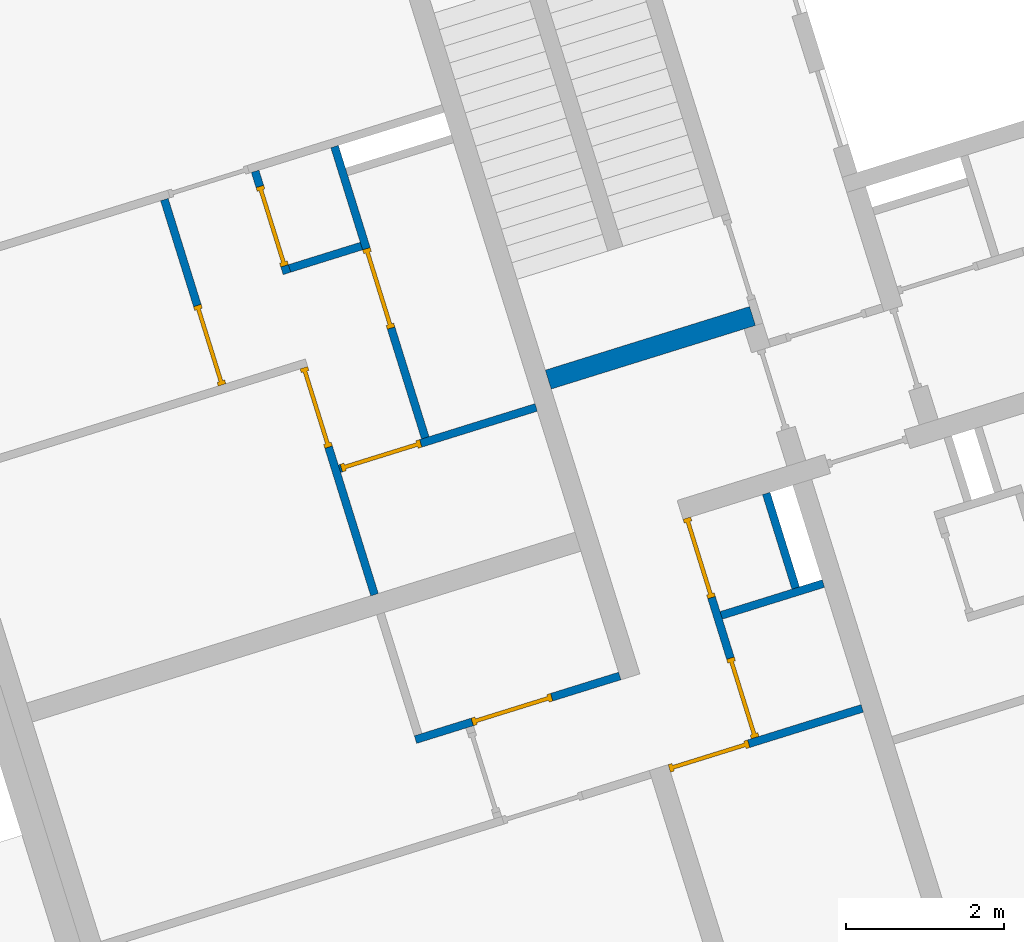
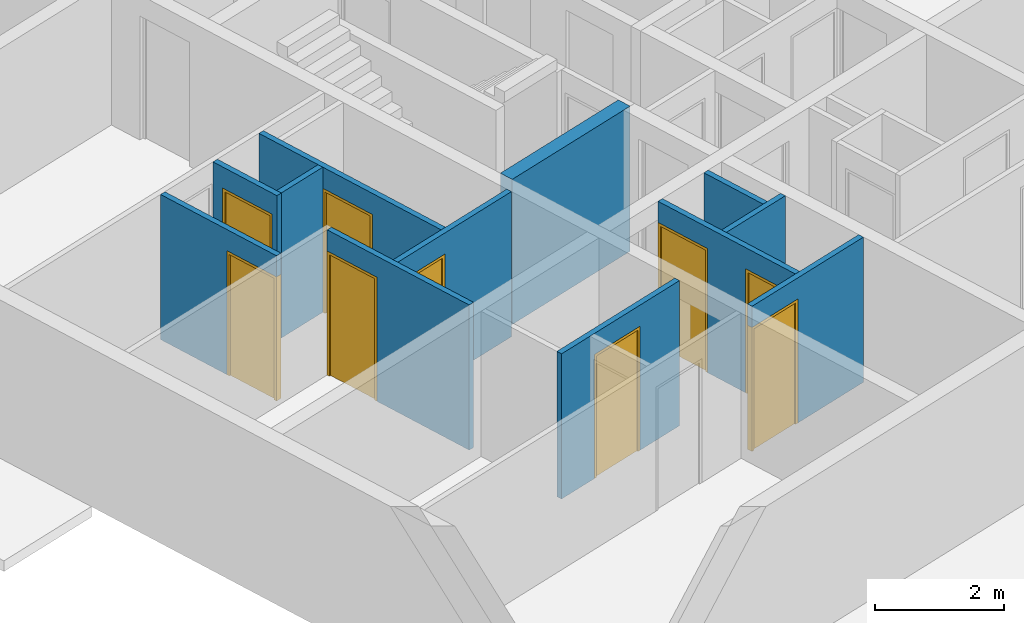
# One storey, part 2 of 9: 12 walls, 9 doors, 10 openings.
"""IFC4 building model written with IfcOpenShell, lengths in metres."""

from ifc_helpers import new_model, entity, si_unit, converted_unit, direction, frame, origin, place, context, subcontext, project, spatial, indexed_curve, outline, extrude, polygons, source, transform, mapped, material, constituent, constituent_set, type_object, type_shapes, element, fill, save


model = new_model("IFC4")

# Units and contexts
model_context = context("Model", 3, precision=1e-05, world=origin(), true_north=direction((6.12323399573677e-17, 1.0)))
body_context = subcontext(model_context, "Body", "Model", "MODEL_VIEW")
ifc_project = project(units=[si_unit("LENGTHUNIT", "METRE"), si_unit("AREAUNIT", "SQUARE_METRE"), converted_unit("PLANEANGLEUNIT", "DEGREE", entity("IfcPlaneAngleMeasure", 0.0174532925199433), si_unit("PLANEANGLEUNIT", "RADIAN"), dimensions=[0, 0, 0, 0, 0, 0, 0]), si_unit("VOLUMEUNIT", "CUBIC_METRE")], contexts=[model_context])

# Site, building, storey
site_placement = place(None, frame((13.1347999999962, 11.9886000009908, 0.0), z_axis=(0.0, 0.0, 1.0), x_axis=(0.954770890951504, 0.297342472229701, 0.0)))
site = spatial("IfcSite", under=ifc_project, at=site_placement, Name="Schiehaven", CompositionType="ELEMENT")
building_placement = place(site_placement, origin())
building = spatial("IfcBuilding", under=site, at=building_placement, Name="VORM huis", CompositionType="ELEMENT")
storey_placement = place(building_placement, frame((0.0, 0.0, 6.9)))
storey = spatial("IfcBuildingStorey", under=building, at=storey_placement, Name="02 tweede verdieping", CompositionType="ELEMENT", Elevation=6.9)

# Walls
ifc_material_1 = material(Name="ntb_ntb_ntb", Category="Miscellaneous")
wall_type_1 = type_object("IfcWallType", Name="Basic Wall:22_WA_afbouw_binnenwand 250mm_gen", PredefinedType="STANDARD")
wall_1_placement = place(storey_placement, frame((65.1249999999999, 13.9649999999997, 0.0)))
element("IfcWall", 1, at=wall_1_placement, inside=storey, type_object=wall_type_1, material=ifc_material_1, Name="Binnenwand", ObjectType="Wand", PredefinedType="NOTDEFINED", context=body_context, shape_type="SweptSolid", body=[
    extrude(outline(indexed_curve([(2.70000000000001, 0.125000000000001), (1.53816777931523e-15, 0.125), (-1.53816777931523e-15, -0.125), (2.70000000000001, -0.124999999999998), (2.70000000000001, 0.125000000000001)], self_intersect=False)), origin(), (0.0, 0.0, 1.0), 2.75),
])
wall_type_2 = type_object("IfcWallType", Name="Basic Wall:22_WA_afbouw_binnenwand 100mm_gen", PredefinedType="STANDARD")
wall_2_placement = place(storey_placement, frame((67.6749999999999, 10.4749999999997, 0.0), z_axis=(0.0, 0.0, 1.0), x_axis=(-1.0, 0.0, 0.0)))
element("IfcWall", 2, at=wall_2_placement, inside=storey, type_object=wall_type_2, material=ifc_material_1, Name="Binnenwand", ObjectType="Wand", PredefinedType="NOTDEFINED", context=body_context, shape_type="SweptSolid", body=[
    extrude(outline(indexed_curve([(1.34999999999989, 0.0499999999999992), (8.93476767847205e-18, 0.0499999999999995), (-8.93476767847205e-18, -0.0499999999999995), (1.34999999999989, -0.0499999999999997), (1.34999999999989, 0.0499999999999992)], self_intersect=False)), origin(), (0.0, 0.0, 1.0), 2.75),
])

# Wall, opening, door
wall_3_placement = place(storey_placement, frame((62.175, 10.1249999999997, 0.0)))
wall_3 = element("IfcWall", 3, at=wall_3_placement, inside=storey, type_object=wall_type_2, material=ifc_material_1, Name="Binnenwand", ObjectType="Wand", PredefinedType="NOTDEFINED", context=body_context, shape_type="Tessellation", body=[
    polygons([(2.96937021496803e-15, -0.0499999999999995, 1.08286712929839e-15), (0.650000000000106, -0.0499999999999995, 0.0), (0.750000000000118, -0.0499999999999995, 1.08286712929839e-15), (0.750000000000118, -0.0499999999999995, 2.34999999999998), (1.80000000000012, -0.0499999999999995, 2.34999999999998), (1.80000000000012, -0.0499999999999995, 1.08286712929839e-15), (2.69999999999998, -0.0499999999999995, 1.08286712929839e-15), (2.69999999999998, -0.0499999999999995, 2.75), (0.75000000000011, -0.0499999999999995, 2.75), (0.650000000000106, -0.0499999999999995, 2.75), (2.96937021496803e-15, -0.0499999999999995, 2.75), (0.750000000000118, 0.0499999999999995, 2.34999999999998), (0.750000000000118, 0.0499999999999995, 1.08286712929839e-15), (0.100000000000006, 0.0499999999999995, 0.0), (2.91285838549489e-15, 0.0499999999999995, 1.08286712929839e-15), (2.91285838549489e-15, 0.0499999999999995, 2.75), (0.100000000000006, 0.0499999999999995, 2.75), (2.69999999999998, 0.0499999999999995, 2.75), (2.69999999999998, 0.0499999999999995, 1.08286712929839e-15), (1.80000000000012, 0.0499999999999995, 1.08286712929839e-15), (1.80000000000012, 0.0499999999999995, 2.34999999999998)], [[[1, 2, 3, 4, 5, 6, 7, 8, 9, 10, 11]], [[12, 13, 14, 15, 16, 17, 18, 19, 20, 21]], [[15, 14, 13, 3, 2, 1]], [[8, 7, 19, 18]], [[11, 10, 9, 8, 18, 17, 16]], [[6, 5, 21, 20]], [[4, 3, 13, 12]], [[5, 4, 12, 21]], [[1, 11, 16, 15]], [[20, 19, 7, 6]]], closed=True),
])
opening_1_placement = place(wall_3_placement, frame((1.80000000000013, 0.0499999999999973, 0.0)))
opening_1 = element("IfcOpeningElement", 4, at=opening_1_placement, cuts=wall_3, Name="Binnendeur", PredefinedType="OPENING", context=body_context, shape_type="SweptSolid", body=[
    extrude(outline(indexed_curve([(2.34999999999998, 0.0), (2.34999999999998, 1.05), (0.0, 1.05), (0.0, 0.0), (2.34999999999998, 0.0)], self_intersect=False)), frame((0.0, 0.0, 0.0), z_axis=(0.0, -1.0, 0.0), x_axis=(0.0, 0.0, 1.0)), (0.0, 0.0, 1.0), 0.1),
])
ifc_material_2 = material(Name="PD_a_binnenwandopeningen", Category="Miscellaneous")
ifc_constituent_1 = constituent(ifc_material_2, Name="PD_a_binnenwandopeningen", Category="Miscellaneous")
ifc_material_3 = material(Name="metaal_aluminium_ntb", Category="Miscellaneous")
ifc_constituent_2 = constituent(ifc_material_3, Name="metaal_aluminium_ntb", Category="Miscellaneous")
ifc_constituent_set_1 = constituent_set(constituents=[ifc_constituent_1, ifc_constituent_2])
ifc_constituent_3 = constituent(ifc_material_2, Name="PD_a_binnenwandopeningen", Category="Miscellaneous")
ifc_constituent_4 = constituent(ifc_material_3, Name="Panel", Category="Miscellaneous")
ifc_constituent_set_2 = constituent_set(constituents=[ifc_constituent_3, ifc_constituent_4])
door_type = type_object("IfcDoorType", Name="32_DO_binnendeur enkel:binnendeur", OperationType="REVOLVING", PredefinedType="DOOR", material=ifc_constituent_set_2)
shared_shape = source(origin(), body_context, "Body", "SweptSolid", [
    extrude(outline(indexed_curve([(0.475, -1.16249999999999), (0.525, -1.16249999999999), (0.525, 1.18749999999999), (-0.525, 1.18749999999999), (-0.525, -1.16249999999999), (-0.475, -1.16249999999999), (-0.475, 1.13749999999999), (0.475, 1.13749999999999), (0.475, -1.16249999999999)], self_intersect=False)), frame((0.525000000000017, 0.100000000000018, 1.16249999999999), z_axis=(0.0, -1.0, 0.0), x_axis=(1.0, 0.0, 0.0)), (0.0, 0.0, 1.0), 0.1),
    extrude(outline(indexed_curve([(-0.475, -0.025), (0.475, -0.025), (0.475, 0.025), (-0.475, 0.025), (-0.475, -0.025)], self_intersect=False)), frame((0.525000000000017, 0.0499999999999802, 0.0)), (0.0, 0.0, 1.0), 2.29999999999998),
])
type_shapes(door_type, [shared_shape])
door_1_placement = place(opening_1_placement, frame((0.0, 0.0, 0.0), z_axis=(0.0, 0.0, 1.0), x_axis=(-1.0, 0.0, 0.0)))
door_1 = element("IfcDoor", 5, at=door_1_placement, inside=storey, type_object=door_type, material=ifc_constituent_set_1, Name="Binnendeur", ObjectType="Deur", OperationType="REVOLVING", OverallHeight=2.34999999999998, OverallWidth=1.05, PredefinedType="DOOR", context=body_context, shape_type="MappedRepresentation", body=[
    mapped(shared_shape, transform((0.0, 0.0, 0.0), scale=1.0)),
])
fill(opening_1, door_1)

# Wall, openings, door
wall_4_placement = place(storey_placement, frame((67.6749999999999, 8.82499999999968, 0.0), z_axis=(0.0, 0.0, 1.0), x_axis=(-1.0, 0.0, 0.0)))
wall_4 = element("IfcWall", 6, at=wall_4_placement, inside=storey, type_object=wall_type_2, material=ifc_material_1, Name="Binnenwand", ObjectType="Wand", PredefinedType="NOTDEFINED", context=body_context, shape_type="Tessellation", body=[
    polygons([(2.5499999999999, -0.0500000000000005, 2.75), (1.44999999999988, -0.0500000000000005, 2.75), (1.34999999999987, -0.0500000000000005, 2.75), (-1.58592126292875e-15, -0.0500000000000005, 2.75), (-1.58592126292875e-15, -0.0500000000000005, 1.08286712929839e-15), (1.49999999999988, -0.0500000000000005, 1.08286712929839e-15), (1.49999999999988, -0.0500000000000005, 2.34999999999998), (2.5499999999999, -0.0500000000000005, 2.34999999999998), (-1.56805172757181e-15, 0.0499999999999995, 2.75), (2.5499999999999, 0.0499999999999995, 2.75), (2.5499999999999, 0.0499999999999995, 2.34999999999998), (1.49999999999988, 0.0499999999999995, 2.34999999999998), (1.49999999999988, 0.0499999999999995, 1.08286712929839e-15), (-1.56805172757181e-15, 0.0499999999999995, 1.08286712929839e-15)], [[[1, 2, 3, 4, 5, 6, 7, 8]], [[9, 10, 11, 12, 13, 14]], [[5, 14, 13, 6]], [[10, 1, 8, 11]], [[4, 3, 2, 1, 10, 9]], [[5, 4, 9, 14]], [[12, 7, 6, 13]], [[7, 12, 11, 8]]], closed=True),
])
opening_2_placement = place(wall_4_placement, origin())
element("IfcOpeningElement", 7, at=opening_2_placement, cuts=wall_4, Name="Binnendeur", PredefinedType="OPENING", context=body_context, shape_type="SweptSolid", body=[
    extrude(outline(indexed_curve([(-0.0499999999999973, -1.17499999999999), (0.050000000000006, -1.17499999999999), (0.050000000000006, 1.17499999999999), (-0.0499999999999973, 1.17499999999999), (-0.0499999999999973, -1.17499999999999)], self_intersect=False)), frame((1.39999999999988, -1.10000000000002, 1.17499999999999), z_axis=(0.0, 1.0, 0.0), x_axis=(1.0, 0.0, 0.0)), (0.0, 0.0, 1.0), 1.05),
])
opening_3_placement = place(wall_4_placement, frame((2.54999999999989, 0.0499999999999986, 0.0)))
opening_3 = element("IfcOpeningElement", 8, at=opening_3_placement, cuts=wall_4, Name="Binnendeur", PredefinedType="OPENING", context=body_context, shape_type="SweptSolid", body=[
    extrude(outline(indexed_curve([(2.34999999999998, 3.32583839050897e-32), (2.34999999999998, 1.05), (0.0, 1.05), (0.0, 3.32583839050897e-32), (2.34999999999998, 3.32583839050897e-32)], self_intersect=False)), frame((0.0, 0.0, 0.0), z_axis=(0.0, -1.0, 0.0), x_axis=(0.0, 0.0, 1.0)), (0.0, 0.0, 1.0), 0.1),
])
ifc_constituent_5 = constituent(ifc_material_2, Name="PD_a_binnenwandopeningen", Category="Miscellaneous")
ifc_constituent_6 = constituent(ifc_material_3, Name="metaal_aluminium_ntb", Category="Miscellaneous")
ifc_constituent_set_3 = constituent_set(constituents=[ifc_constituent_5, ifc_constituent_6])
door_2_placement = place(opening_3_placement, frame((0.0, 0.0, 0.0), z_axis=(0.0, 0.0, 1.0), x_axis=(-1.0, 0.0, 0.0)))
door_2 = element("IfcDoor", 9, at=door_2_placement, inside=storey, type_object=door_type, material=ifc_constituent_set_3, Name="Binnendeur", ObjectType="Deur", OperationType="REVOLVING", OverallHeight=2.34999999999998, OverallWidth=1.05, PredefinedType="DOOR", context=body_context, shape_type="MappedRepresentation", body=[
    mapped(shared_shape, transform((0.0, 0.0, 0.0), scale=1.0)),
])
fill(opening_3, door_2)

# Wall, openings, doors
wall_5_placement = place(storey_placement, frame((66.275, 11.7749999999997, 0.0), z_axis=(0.0, 0.0, 1.0), x_axis=(0.0, -1.0, 0.0)))
wall_5 = element("IfcWall", 10, at=wall_5_placement, inside=storey, type_object=wall_type_2, material=ifc_material_1, Name="Binnenwand", ObjectType="Wand", PredefinedType="NOTDEFINED", context=body_context, shape_type="Tessellation", body=[
    polygons([(2.90000000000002, -0.0500000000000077, 2.75), (2.16573425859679e-15, -0.050000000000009, 2.75), (2.16573425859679e-15, -0.050000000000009, 2.34999999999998), (1.05, -0.0500000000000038, 2.34999999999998), (1.05, -0.0500000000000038, 1.08286712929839e-15), (1.85, -0.050000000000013, 1.08286712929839e-15), (1.85, -0.050000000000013, 2.34999999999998), (2.90000000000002, -0.0500000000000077, 2.34999999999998), (2.16573425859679e-15, 0.0499999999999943, 2.75), (1.25000000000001, 0.0499999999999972, 2.75), (1.35000000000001, 0.049999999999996, 2.75), (2.90000000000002, 0.0499999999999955, 2.75), (2.90000000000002, 0.0499999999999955, 2.34999999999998), (1.85, 0.0499999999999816, 2.34999999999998), (1.85, 0.0499999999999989, 1.08286712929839e-15), (1.35000000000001, 0.049999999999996, 0.0), (1.25000000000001, 0.0499999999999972, 0.0), (1.05, 0.0499999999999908, 1.08286712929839e-15), (1.05, 0.0499999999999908, 2.34999999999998), (2.16573425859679e-15, 0.0499999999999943, 2.34999999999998)], [[[1, 2, 3, 4, 5, 6, 7, 8]], [[9, 10, 11, 12, 13, 14, 15, 16, 17, 18, 19, 20]], [[15, 6, 5, 18, 17, 16]], [[2, 1, 12, 11, 10, 9]], [[2, 9, 20, 3]], [[4, 19, 18, 5]], [[19, 4, 3, 20]], [[14, 7, 6, 15]], [[7, 14, 13, 8]], [[12, 1, 8, 13]]], closed=True),
])
opening_4_placement = place(wall_5_placement, frame((2.9, 0.0500000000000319, 0.0)))
opening_4 = element("IfcOpeningElement", 11, at=opening_4_placement, cuts=wall_5, Name="Binnendeur", PredefinedType="OPENING", context=body_context, shape_type="SweptSolid", body=[
    extrude(outline(indexed_curve([(2.34999999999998, 0.0), (2.34999999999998, 1.05), (0.0, 1.05), (0.0, 0.0), (2.34999999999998, 0.0)], self_intersect=False)), frame((0.0, 0.0, 0.0), z_axis=(0.0, -1.0, 0.0), x_axis=(0.0, 0.0, 1.0)), (0.0, 0.0, 1.0), 0.1),
])
opening_5_placement = place(wall_5_placement, frame((1.05, 0.0500000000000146, 0.0)))
opening_5 = element("IfcOpeningElement", 12, at=opening_5_placement, cuts=wall_5, Name="Binnendeur", PredefinedType="OPENING", context=body_context, shape_type="SweptSolid", body=[
    extrude(outline(indexed_curve([(2.34999999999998, 1.35358391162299e-15), (2.34999999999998, 1.05), (0.0, 1.05), (0.0, 1.35358391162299e-15), (2.34999999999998, 1.35358391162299e-15)], self_intersect=False)), frame((0.0, 0.0, 0.0), z_axis=(0.0, -1.0, 0.0), x_axis=(0.0, 0.0, 1.0)), (0.0, 0.0, 1.0), 0.1),
])
ifc_constituent_7 = constituent(ifc_material_2, Name="PD_a_binnenwandopeningen", Category="Miscellaneous")
ifc_constituent_8 = constituent(ifc_material_3, Name="metaal_aluminium_ntb", Category="Miscellaneous")
ifc_constituent_set_4 = constituent_set(constituents=[ifc_constituent_7, ifc_constituent_8])
door_3_placement = place(opening_4_placement, frame((0.0, 0.0, 0.0), z_axis=(0.0, 0.0, 1.0), x_axis=(-1.0, 0.0, 0.0)))
door_3 = element("IfcDoor", 13, at=door_3_placement, inside=storey, type_object=door_type, material=ifc_constituent_set_4, Name="Binnendeur", ObjectType="Deur", OperationType="REVOLVING", OverallHeight=2.34999999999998, OverallWidth=1.05, PredefinedType="DOOR", context=body_context, shape_type="MappedRepresentation", body=[
    mapped(shared_shape, transform((0.0, 0.0, 0.0), scale=1.0)),
])
fill(opening_4, door_3)
ifc_constituent_9 = constituent(ifc_material_2, Name="PD_a_binnenwandopeningen", Category="Miscellaneous")
ifc_constituent_10 = constituent(ifc_material_3, Name="metaal_aluminium_ntb", Category="Miscellaneous")
ifc_constituent_set_5 = constituent_set(constituents=[ifc_constituent_9, ifc_constituent_10])
door_4_placement = place(opening_5_placement, frame((0.0, 0.0, 0.0), z_axis=(0.0, 0.0, 1.0), x_axis=(-1.0, 0.0, 0.0)))
door_4 = element("IfcDoor", 14, at=door_4_placement, inside=storey, type_object=door_type, material=ifc_constituent_set_5, Name="Binnendeur", ObjectType="Deur", OperationType="REVOLVING", OverallHeight=2.34999999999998, OverallWidth=1.05, PredefinedType="DOOR", context=body_context, shape_type="MappedRepresentation", body=[
    mapped(shared_shape, transform((0.0, 0.0, 0.0), scale=1.0)),
])
fill(opening_5, door_4)

# Wall
wall_6_placement = place(storey_placement, frame((67.3250000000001, 11.7749999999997, 0.0), z_axis=(0.0, 0.0, 1.0), x_axis=(0.0, -1.0, 0.0)))
element("IfcWall", 15, at=wall_6_placement, inside=storey, type_object=wall_type_2, material=ifc_material_1, Name="Binnenwand", ObjectType="Wand", PredefinedType="NOTDEFINED", context=body_context, shape_type="SweptSolid", body=[
    extrude(outline(indexed_curve([(1.25000000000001, 0.0499999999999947), (-9.34348297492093e-16, 0.0499999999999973), (9.34348297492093e-16, -0.0499999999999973), (1.25000000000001, -0.0499999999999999), (1.25000000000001, 0.0499999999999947)], self_intersect=False)), origin(), (0.0, 0.0, 1.0), 2.75),
])

# Wall, opening, door
wall_7_placement = place(storey_placement, frame((62.375, 16.2249999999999, 0.0), z_axis=(0.0, 0.0, 1.0), x_axis=(0.0, 1.0, 0.0)))
wall_7 = element("IfcWall", 16, at=wall_7_placement, inside=storey, type_object=wall_type_2, material=ifc_material_1, Name="Binnenwand", ObjectType="Wand", PredefinedType="NOTDEFINED", context=body_context, shape_type="Tessellation", body=[
    polygons([(1.15, -0.0500000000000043, 2.34999999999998), (1.15, -0.0500000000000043, 1.08286712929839e-15), (1.35, -0.0500000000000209, 1.08286712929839e-15), (1.35, -0.0500000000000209, 2.75), (0.100000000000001, -0.050000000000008, 2.75), (0.0, -0.0500000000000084, 2.75), (0.0, -0.0500000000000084, 1.08286712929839e-15), (0.0999999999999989, -0.050000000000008, 1.08286712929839e-15), (0.0999999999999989, -0.050000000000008, 2.34999999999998), (1.35, 0.049999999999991, 1.08286712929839e-15), (1.15, 0.0500000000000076, 1.08286712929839e-15), (1.15, 0.0500000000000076, 2.34999999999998), (0.0999999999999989, 0.0500000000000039, 2.34999999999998), (0.0999999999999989, 0.0500000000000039, 1.08286712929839e-15), (0.0, 0.0500000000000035, 1.08286712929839e-15), (0.0, 0.0500000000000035, 2.75), (1.35, 0.049999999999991, 2.75)], [[[1, 2, 3, 4, 5, 6, 7, 8, 9]], [[10, 11, 12, 13, 14, 15, 16, 17]], [[8, 7, 15, 14]], [[6, 5, 4, 17, 16]], [[7, 6, 16, 15]], [[4, 3, 10, 17]], [[14, 13, 9, 8]], [[12, 11, 2, 1]], [[13, 12, 1, 9]], [[3, 2, 11, 10]]], closed=True),
])
opening_6_placement = place(wall_7_placement, frame((0.0999999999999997, -0.050000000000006, 0.0)))
opening_6 = element("IfcOpeningElement", 17, at=opening_6_placement, cuts=wall_7, Name="Binnendeur", PredefinedType="OPENING", context=body_context, shape_type="SweptSolid", body=[
    extrude(outline(indexed_curve([(2.34999999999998, 1.35358391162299e-15), (2.34999999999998, 1.05), (0.0, 1.05), (0.0, 1.35358391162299e-15), (2.34999999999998, 1.35358391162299e-15)], self_intersect=False)), frame((0.0, 0.0, 0.0), z_axis=(0.0, 1.0, 0.0), x_axis=(0.0, 0.0, 1.0)), (0.0, 0.0, 1.0), 0.1),
])
ifc_constituent_11 = constituent(ifc_material_2, Name="PD_a_binnenwandopeningen", Category="Miscellaneous")
ifc_constituent_12 = constituent(ifc_material_3, Name="metaal_aluminium_ntb", Category="Miscellaneous")
ifc_constituent_set_6 = constituent_set(constituents=[ifc_constituent_11, ifc_constituent_12])
door_5_placement = place(opening_6_placement, origin())
door_5 = element("IfcDoor", 18, at=door_5_placement, inside=storey, type_object=door_type, material=ifc_constituent_set_6, Name="Binnendeur", ObjectType="Deur", OperationType="REVOLVING", OverallHeight=2.34999999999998, OverallWidth=1.05, PredefinedType="DOOR", context=body_context, shape_type="MappedRepresentation", body=[
    mapped(shared_shape, transform((0.0, 0.0, 0.0), scale=1.0)),
])
fill(opening_6, door_5)

# Wall
wall_8_placement = place(storey_placement, frame((63.375, 16.2749999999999, 0.0), z_axis=(0.0, 0.0, 1.0), x_axis=(-1.0, 0.0, 0.0)))
element("IfcWall", 19, at=wall_8_placement, inside=storey, type_object=wall_type_2, material=ifc_material_1, Name="Binnenwand", ObjectType="Wand", PredefinedType="NOTDEFINED", context=body_context, shape_type="SweptSolid", body=[
    extrude(outline(indexed_curve([(0.949999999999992, 0.0499999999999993), (8.93476767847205e-18, 0.0499999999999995), (-8.93476767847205e-18, -0.0499999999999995), (0.949999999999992, -0.0499999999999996), (0.949999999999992, 0.0499999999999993)], self_intersect=False)), origin(), (0.0, 0.0, 1.0), 2.75),
])

# Wall, opening, door
wall_9_placement = place(storey_placement, frame((61.175, 15.1249999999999, 0.0), z_axis=(0.0, 0.0, 1.0), x_axis=(0.0, 1.0, 0.0)))
wall_9 = element("IfcWall", 20, at=wall_9_placement, inside=storey, type_object=wall_type_2, material=ifc_material_1, Name="Binnenwand", ObjectType="Wand", PredefinedType="NOTDEFINED", context=body_context, shape_type="Tessellation", body=[
    polygons([(2.45, -0.0500000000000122, 2.75), (-2.16573425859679e-15, -0.0500000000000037, 2.75), (-2.16573425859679e-15, -0.0500000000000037, 2.34999999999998), (1.05, -0.0499999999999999, 2.34999999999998), (1.05, -0.0499999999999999, 1.08286712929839e-15), (2.45, -0.0500000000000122, 1.08286712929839e-15), (-2.16573425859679e-15, 0.0500000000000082, 2.75), (2.45, 0.0499999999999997, 2.75), (2.45, 0.0499999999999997, 1.08286712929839e-15), (1.05, 0.050000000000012, 1.08286712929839e-15), (1.05, 0.050000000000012, 2.34999999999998), (-2.16573425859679e-15, 0.0500000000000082, 2.34999999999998)], [[[1, 2, 3, 4, 5, 6]], [[7, 8, 9, 10, 11, 12]], [[9, 6, 5, 10]], [[2, 1, 8, 7]], [[2, 7, 12, 3]], [[1, 6, 9, 8]], [[4, 11, 10, 5]], [[11, 4, 3, 12]]], closed=True),
])
opening_7_placement = place(wall_9_placement, frame((1.05000000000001, 0.0499999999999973, 0.0)))
opening_7 = element("IfcOpeningElement", 21, at=opening_7_placement, cuts=wall_9, Name="Binnendeur", PredefinedType="OPENING", context=body_context, shape_type="SweptSolid", body=[
    extrude(outline(indexed_curve([(2.34999999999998, 1.35358391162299e-15), (2.34999999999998, 1.05), (0.0, 1.05), (0.0, 1.35358391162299e-15), (2.34999999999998, 1.35358391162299e-15)], self_intersect=False)), frame((0.0, 0.0, 0.0), z_axis=(0.0, -1.0, 0.0), x_axis=(0.0, 0.0, 1.0)), (0.0, 0.0, 1.0), 0.1),
])
ifc_constituent_13 = constituent(ifc_material_2, Name="PD_a_binnenwandopeningen", Category="Miscellaneous")
ifc_constituent_14 = constituent(ifc_material_3, Name="metaal_aluminium_ntb", Category="Miscellaneous")
ifc_constituent_set_7 = constituent_set(constituents=[ifc_constituent_13, ifc_constituent_14])
door_6_placement = place(opening_7_placement, frame((0.0, 0.0, 0.0), z_axis=(0.0, 0.0, 1.0), x_axis=(-1.0, 0.0, 0.0)))
door_6 = element("IfcDoor", 22, at=door_6_placement, inside=storey, type_object=door_type, material=ifc_constituent_set_7, Name="Binnendeur", ObjectType="Deur", OperationType="REVOLVING", OverallHeight=2.34999999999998, OverallWidth=1.05, PredefinedType="DOOR", context=body_context, shape_type="MappedRepresentation", body=[
    mapped(shared_shape, transform((0.0, 0.0, 0.0), scale=1.0)),
])
fill(opening_7, door_6)

wall_10_placement = place(storey_placement, frame((62.225, 12.0249999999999, 0.0), z_axis=(0.0, 0.0, 1.0), x_axis=(0.0, 1.0, 0.0)))
wall_10 = element("IfcWall", 23, at=wall_10_placement, inside=storey, type_object=wall_type_2, material=ifc_material_1, Name="Binnenwand", ObjectType="Wand", PredefinedType="NOTDEFINED", context=body_context, shape_type="Tessellation", body=[
    polygons([(3.00000000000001, -0.0500000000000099, 2.75), (1.70000000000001, -0.0500000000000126, 2.75), (1.60000000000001, -0.0500000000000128, 2.75), (0.0, -0.0500000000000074, 2.75), (0.0, -0.0500000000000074, 1.08286712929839e-15), (1.60000000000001, -0.0500000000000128, 0.0), (1.70000000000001, -0.0500000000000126, 0.0), (1.95000000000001, -0.0500000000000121, 1.08286712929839e-15), (1.95000000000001, -0.0500000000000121, 2.34999999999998), (3.00000000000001, -0.0500000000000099, 2.34999999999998), (0.0, 0.0499999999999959, 2.75), (3.00000000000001, 0.0499999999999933, 2.75), (3.00000000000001, 0.0499999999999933, 2.34999999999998), (1.95000000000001, 0.0499999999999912, 2.34999999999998), (1.95000000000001, 0.0499999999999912, 1.08286712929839e-15), (0.0, 0.0499999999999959, 1.08286712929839e-15)], [[[1, 2, 3, 4, 5, 6, 7, 8, 9, 10]], [[11, 12, 13, 14, 15, 16]], [[5, 16, 15, 8, 7, 6]], [[4, 3, 2, 1, 12, 11]], [[5, 4, 11, 16]], [[12, 1, 10, 13]], [[14, 9, 8, 15]], [[9, 14, 13, 10]]], closed=True),
])
opening_8_placement = place(wall_10_placement, frame((3.0, 0.04999999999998, 0.0)))
opening_8 = element("IfcOpeningElement", 24, at=opening_8_placement, cuts=wall_10, Name="Binnendeur", PredefinedType="OPENING", context=body_context, shape_type="SweptSolid", body=[
    extrude(outline(indexed_curve([(2.34999999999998, 1.08286712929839e-15), (2.34999999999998, 1.05), (0.0, 1.05), (0.0, 1.08286712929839e-15), (2.34999999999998, 1.08286712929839e-15)], self_intersect=False)), frame((0.0, 0.0, 0.0), z_axis=(0.0, -1.0, 0.0), x_axis=(0.0, 0.0, 1.0)), (0.0, 0.0, 1.0), 0.1),
])
ifc_constituent_15 = constituent(ifc_material_2, Name="PD_a_binnenwandopeningen", Category="Miscellaneous")
ifc_constituent_16 = constituent(ifc_material_3, Name="metaal_aluminium_ntb", Category="Miscellaneous")
ifc_constituent_set_8 = constituent_set(constituents=[ifc_constituent_15, ifc_constituent_16])
door_7_placement = place(opening_8_placement, frame((0.0, 0.0, 0.0), z_axis=(0.0, 0.0, 1.0), x_axis=(-1.0, 0.0, 0.0)))
door_7 = element("IfcDoor", 25, at=door_7_placement, inside=storey, type_object=door_type, material=ifc_constituent_set_8, Name="Binnendeur", ObjectType="Deur", OperationType="REVOLVING", OverallHeight=2.34999999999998, OverallWidth=1.05, PredefinedType="DOOR", context=body_context, shape_type="MappedRepresentation", body=[
    mapped(shared_shape, transform((0.0, 0.0, 0.0), scale=1.0)),
])
fill(opening_8, door_7)

wall_11_placement = place(storey_placement, frame((62.275, 13.6749999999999, 0.0)))
wall_11 = element("IfcWall", 26, at=wall_11_placement, inside=storey, type_object=wall_type_2, material=ifc_material_1, Name="Binnenwand", ObjectType="Wand", PredefinedType="NOTDEFINED", context=body_context, shape_type="Tessellation", body=[
    polygons([(1.07499999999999, -0.0499999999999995, 2.34999999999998), (1.07499999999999, -0.0499999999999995, 1.08286712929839e-15), (2.59999999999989, -0.0499999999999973, 1.08286712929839e-15), (2.59999999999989, -0.0499999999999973, 2.75), (4.21040811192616e-16, -0.0499999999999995, 2.75), (4.21040811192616e-16, -0.0499999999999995, 1.08286712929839e-15), (0.0249999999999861, -0.0499999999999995, 1.08286712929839e-15), (0.0249999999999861, -0.0499999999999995, 2.34999999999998), (2.59999999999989, 0.0499999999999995, 1.08286712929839e-15), (1.2, 0.0500000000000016, 0.0), (1.09999999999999, 0.0500000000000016, 0.0), (1.07499999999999, 0.0500000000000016, 1.08286712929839e-15), (1.07499999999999, 0.0500000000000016, 2.34999999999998), (0.0249999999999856, 0.0500000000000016, 2.34999999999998), (0.0249999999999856, 0.0500000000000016, 1.08286712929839e-15), (-8.45184949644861e-17, 0.0500000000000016, 1.08286712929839e-15), (-8.45184949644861e-17, 0.0500000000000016, 2.75), (1.09999999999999, 0.0500000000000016, 2.75), (1.2, 0.0500000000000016, 2.75), (2.59999999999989, 0.0499999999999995, 2.75)], [[[1, 2, 3, 4, 5, 6, 7, 8]], [[9, 10, 11, 12, 13, 14, 15, 16, 17, 18, 19, 20]], [[7, 6, 16, 15]], [[4, 3, 9, 20]], [[5, 4, 20, 19, 18, 17]], [[6, 5, 17, 16]], [[15, 14, 8, 7]], [[13, 12, 2, 1]], [[14, 13, 1, 8]], [[3, 2, 12, 11, 10, 9]]], closed=True),
])
opening_9_placement = place(wall_11_placement, frame((0.0249999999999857, -0.0499999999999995, 0.0)))
opening_9 = element("IfcOpeningElement", 27, at=opening_9_placement, cuts=wall_11, Name="Binnendeur", PredefinedType="OPENING", context=body_context, shape_type="SweptSolid", body=[
    extrude(outline(indexed_curve([(2.34999999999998, 0.0), (2.34999999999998, 1.05), (0.0, 1.05), (0.0, 0.0), (2.34999999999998, 0.0)], self_intersect=False)), frame((0.0, 0.0, 0.0), z_axis=(0.0, 1.0, 0.0), x_axis=(0.0, 0.0, 1.0)), (0.0, 0.0, 1.0), 0.1),
])
ifc_constituent_17 = constituent(ifc_material_2, Name="PD_a_binnenwandopeningen", Category="Miscellaneous")
ifc_constituent_18 = constituent(ifc_material_3, Name="metaal_aluminium_ntb", Category="Miscellaneous")
ifc_constituent_set_9 = constituent_set(constituents=[ifc_constituent_17, ifc_constituent_18])
door_8_placement = place(opening_9_placement, origin())
door_8 = element("IfcDoor", 28, at=door_8_placement, inside=storey, type_object=door_type, material=ifc_constituent_set_9, Name="Binnendeur", ObjectType="Deur", OperationType="REVOLVING", OverallHeight=2.34999999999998, OverallWidth=1.05, PredefinedType="DOOR", context=body_context, shape_type="MappedRepresentation", body=[
    mapped(shared_shape, transform((0.0, 0.0, 0.0), scale=1.0)),
])
fill(opening_9, door_8)

wall_12_placement = place(storey_placement, frame((63.425, 13.7249999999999, 0.0), z_axis=(0.0, 0.0, 1.0), x_axis=(0.0, 1.0, 0.0)))
wall_12 = element("IfcWall", 29, at=wall_12_placement, inside=storey, type_object=wall_type_2, material=ifc_material_1, Name="Binnenwand", ObjectType="Wand", PredefinedType="NOTDEFINED", context=body_context, shape_type="Tessellation", body=[
    polygons([(2.50000000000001, -0.0500000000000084, 2.34999999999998), (2.50000000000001, -0.0500000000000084, 1.08286712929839e-15), (3.45000000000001, -0.050000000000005, 0.0), (3.55000000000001, -0.0500000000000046, 0.0), (3.85000000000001, -0.0500000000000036, 1.08286712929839e-15), (3.85000000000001, -0.0500000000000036, 2.75), (3.55000000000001, -0.0500000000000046, 2.75), (3.45000000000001, -0.050000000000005, 2.75), (0.0, -0.0500000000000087, 2.75), (0.0, -0.0500000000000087, 1.08286712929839e-15), (1.45000000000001, -0.0500000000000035, 1.08286712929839e-15), (1.45000000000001, -0.0500000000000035, 2.34999999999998), (3.85000000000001, 0.0499999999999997, 1.08286712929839e-15), (2.60000000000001, 0.0499999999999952, 0.0), (2.50000000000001, 0.0499999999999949, 1.08286712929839e-15), (2.50000000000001, 0.0499999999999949, 2.34999999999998), (1.45000000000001, 0.0499999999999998, 2.34999999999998), (1.45000000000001, 0.0499999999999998, 1.08286712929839e-15), (0.0, 0.0499999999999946, 1.08286712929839e-15), (0.0, 0.0499999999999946, 2.75), (2.50000000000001, 0.0499999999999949, 2.75), (2.60000000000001, 0.0499999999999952, 2.75), (3.85000000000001, 0.0499999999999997, 2.75)], [[[1, 2, 3, 4, 5, 6, 7, 8, 9, 10, 11, 12]], [[13, 14, 15, 16, 17, 18, 19, 20, 21, 22, 23]], [[11, 10, 19, 18]], [[9, 8, 7, 6, 23, 22, 21, 20]], [[10, 9, 20, 19]], [[6, 5, 13, 23]], [[18, 17, 12, 11]], [[16, 15, 2, 1]], [[17, 16, 1, 12]], [[5, 4, 3, 2, 15, 14, 13]]], closed=True),
])
opening_10_placement = place(wall_12_placement, frame((1.45000000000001, -0.0499999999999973, 0.0)))
opening_10 = element("IfcOpeningElement", 30, at=opening_10_placement, cuts=wall_12, Name="Binnendeur", PredefinedType="OPENING", context=body_context, shape_type="SweptSolid", body=[
    extrude(outline(indexed_curve([(2.34999999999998, 1.35358391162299e-15), (2.34999999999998, 1.05), (0.0, 1.05), (0.0, 1.35358391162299e-15), (2.34999999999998, 1.35358391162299e-15)], self_intersect=False)), frame((0.0, 0.0, 0.0), z_axis=(0.0, 1.0, 0.0), x_axis=(0.0, 0.0, 1.0)), (0.0, 0.0, 1.0), 0.1),
])
ifc_constituent_19 = constituent(ifc_material_2, Name="PD_a_binnenwandopeningen", Category="Miscellaneous")
ifc_constituent_20 = constituent(ifc_material_3, Name="metaal_aluminium_ntb", Category="Miscellaneous")
ifc_constituent_set_10 = constituent_set(constituents=[ifc_constituent_19, ifc_constituent_20])
door_9_placement = place(opening_10_placement, origin())
door_9 = element("IfcDoor", 31, at=door_9_placement, inside=storey, type_object=door_type, material=ifc_constituent_set_10, Name="Binnendeur", ObjectType="Deur", OperationType="REVOLVING", OverallHeight=2.34999999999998, OverallWidth=1.05, PredefinedType="DOOR", context=body_context, shape_type="MappedRepresentation", body=[
    mapped(shared_shape, transform((0.0, 0.0, 0.0), scale=1.0)),
])
fill(opening_10, door_9)

save(model, "model.ifc")
